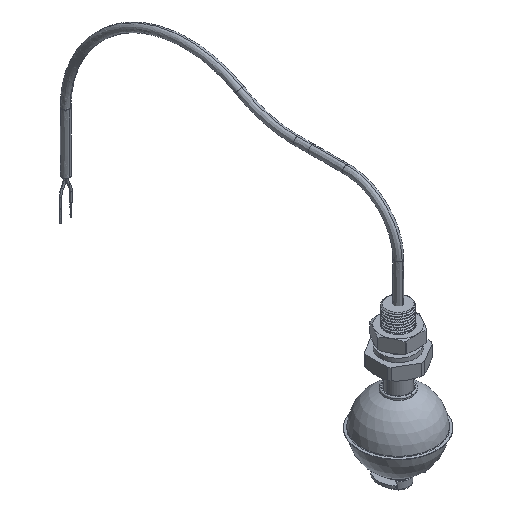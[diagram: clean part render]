
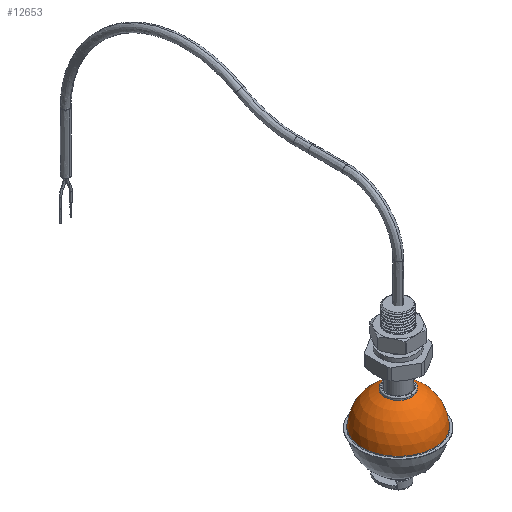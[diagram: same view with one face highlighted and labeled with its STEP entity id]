
A CAD part, isometric view. The second image highlights one B-rep face of the part: STEP entity #12653.
In plain terms, the highlighted spherical face has radius 14 mm.
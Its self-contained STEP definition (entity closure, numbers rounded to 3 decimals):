
#451 = DIRECTION ( 'NONE',  ( 0., 1., 0. ) ) ;
#654 = EDGE_LOOP ( 'NONE', ( #9734, #1699 ) ) ;
#887 = AXIS2_PLACEMENT_3D ( 'NONE', #10958, #14418, #13190 ) ;
#905 = AXIS2_PLACEMENT_3D ( 'NONE', #12890, #11528, #13893 ) ;
#1419 = ORIENTED_EDGE ( 'NONE', *, *, #8759, .T. ) ;
#1699 = ORIENTED_EDGE ( 'NONE', *, *, #5926, .T. ) ;
#2229 = FACE_OUTER_BOUND ( 'NONE', #654, .T. ) ;
#3418 = CARTESIAN_POINT ( 'NONE',  ( 0., 0.417, -13.994 ) ) ;
#3503 = EDGE_LOOP ( 'NONE', ( #1419, #14252 ) ) ;
#4131 = DIRECTION ( 'NONE',  ( 0., 1., 0. ) ) ;
#4476 = FACE_BOUND ( 'NONE', #3503, .T. ) ;
#5291 = CARTESIAN_POINT ( 'NONE',  ( 0., 0.417, 0. ) ) ;
#5926 = EDGE_CURVE ( 'NONE', #12761, #9090, #15207, .T. ) ;
#6269 = AXIS2_PLACEMENT_3D ( 'NONE', #14521, #9978, #8421 ) ;
#6874 = CARTESIAN_POINT ( 'NONE',  ( 0., 0.417, 13.994 ) ) ;
#7534 = CIRCLE ( 'NONE', #887, 5.25 ) ;
#8421 = DIRECTION ( 'NONE',  ( 0., 0., -1. ) ) ;
#8549 = AXIS2_PLACEMENT_3D ( 'NONE', #5291, #4131, #8848 ) ;
#8759 = EDGE_CURVE ( 'NONE', #12797, #14147, #9249, .T. ) ;
#8848 = DIRECTION ( 'NONE',  ( 0., 0., -1. ) ) ;
#9090 = VERTEX_POINT ( 'NONE', #3418 ) ;
#9192 = SPHERICAL_SURFACE ( 'NONE', #905, 14. ) ;
#9249 = CIRCLE ( 'NONE', #6269, 5.25 ) ;
#9734 = ORIENTED_EDGE ( 'NONE', *, *, #14635, .T. ) ;
#9978 = DIRECTION ( 'NONE',  ( 0., -1., 0. ) ) ;
#10746 = CIRCLE ( 'NONE', #11249, 13.994 ) ;
#10958 = CARTESIAN_POINT ( 'NONE',  ( 0., 12.978, 0. ) ) ;
#11249 = AXIS2_PLACEMENT_3D ( 'NONE', #14266, #451, #11966 ) ;
#11528 = DIRECTION ( 'NONE',  ( 0., -1., -0.002 ) ) ;
#11966 = DIRECTION ( 'NONE',  ( 0., 0., -1. ) ) ;
#12653 = ADVANCED_FACE ( 'NONE', ( #2229, #4476 ), #9192, .T. ) ;
#12761 = VERTEX_POINT ( 'NONE', #6874 ) ;
#12797 = VERTEX_POINT ( 'NONE', #13968 ) ;
#12890 = CARTESIAN_POINT ( 'NONE',  ( 0., 0., 0. ) ) ;
#13190 = DIRECTION ( 'NONE',  ( 0., 0., -1. ) ) ;
#13672 = CARTESIAN_POINT ( 'NONE',  ( 0., 12.978, 5.25 ) ) ;
#13893 = DIRECTION ( 'NONE',  ( 0., 0.002, -1. ) ) ;
#13968 = CARTESIAN_POINT ( 'NONE',  ( 0., 12.978, -5.25 ) ) ;
#14147 = VERTEX_POINT ( 'NONE', #13672 ) ;
#14252 = ORIENTED_EDGE ( 'NONE', *, *, #14619, .T. ) ;
#14266 = CARTESIAN_POINT ( 'NONE',  ( 0., 0.417, 0. ) ) ;
#14418 = DIRECTION ( 'NONE',  ( 0., -1., 0. ) ) ;
#14521 = CARTESIAN_POINT ( 'NONE',  ( 0., 12.978, 0. ) ) ;
#14619 = EDGE_CURVE ( 'NONE', #14147, #12797, #7534, .T. ) ;
#14635 = EDGE_CURVE ( 'NONE', #9090, #12761, #10746, .T. ) ;
#15207 = CIRCLE ( 'NONE', #8549, 13.994 ) ;
